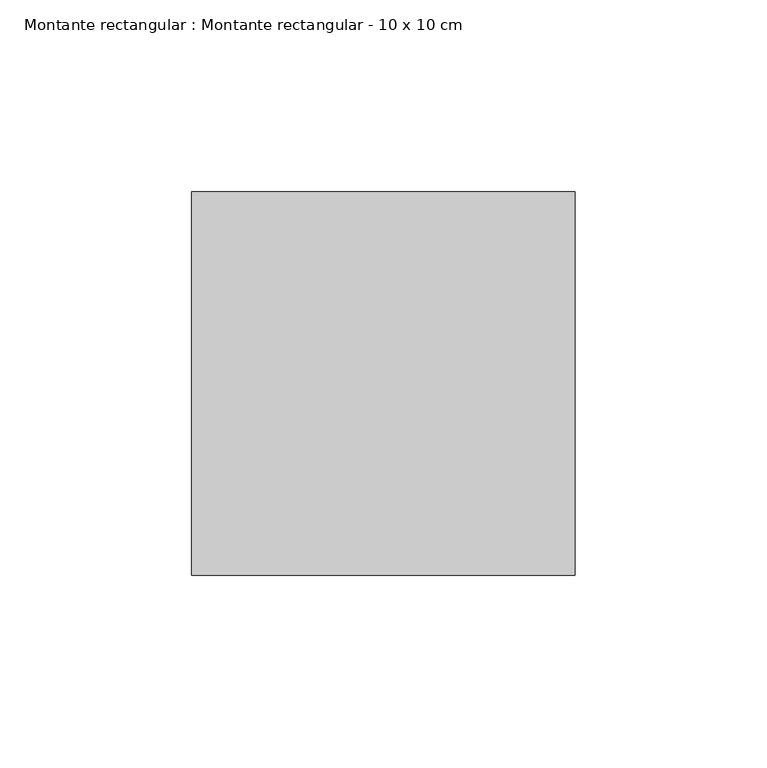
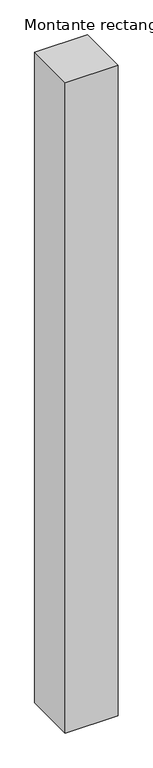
"""IFC4 building model written with IfcOpenShell, lengths in millimetres: member geometry, Montante rectangular : Montante rectangular - 10 x 10 cm."""

from ifc_helpers import new_model, si_unit, frame, origin, place, context, project, spatial, polyline, outline, extrude, source, transform, mapped, element, save


def montante_rectangular_montante_rectangular_10_x_10_cm_14964f59(model_context):
    return source(origin(), model_context, "Body", "SweptSolid", [
        extrude(outline(polyline([(-100.0, 50.0), (0.0, 50.0), (0.0, -50.0), (-100.0, -50.0), (-100.0, 50.0)])), frame((0.0, 0.0, -1300.0), z_axis=(0.0, 0.0, 1.0), x_axis=(1.0, 0.0, 0.0)), (0.0, 0.0, 1.0), 1300.0),
    ])


if __name__ == "__main__":
    model = new_model("IFC4")
    model_context = context("Model", 3, world=origin())
    ifc_project = project(units=[si_unit("LENGTHUNIT", "METRE", prefix="MILLI")], contexts=[model_context])
    site = spatial("IfcSite", under=ifc_project)
    building = spatial("IfcBuilding", under=site)
    placement = place(None, origin())
    montante_rectangular_montante_rectangular_10_x_10_cm_shape = montante_rectangular_montante_rectangular_10_x_10_cm_14964f59(model_context)
    element("IfcMember", 1, ObjectType="Montante rectangular : Montante rectangular - 10 x 10 cm", at=placement, inside=building, context=model_context, shape_type="MappedRepresentation", body=[
        mapped(montante_rectangular_montante_rectangular_10_x_10_cm_shape, transform((0.0, 0.0, 0.0), x_axis=(1.0, 0.0, 0.0), y_axis=(0.0, 1.0, 0.0), z_axis=(0.0, 0.0, 1.0))),
    ])
    save(model, "model.ifc")
